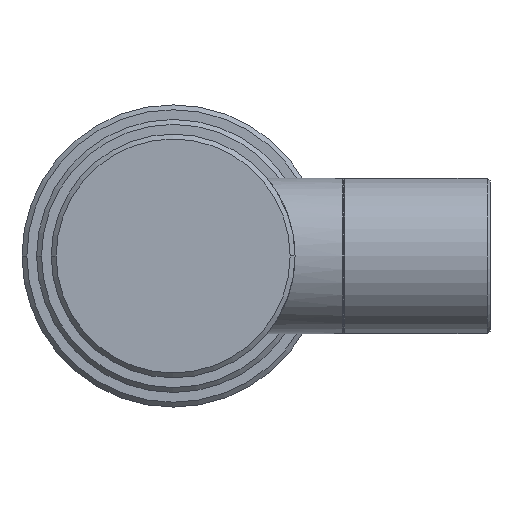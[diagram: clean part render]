
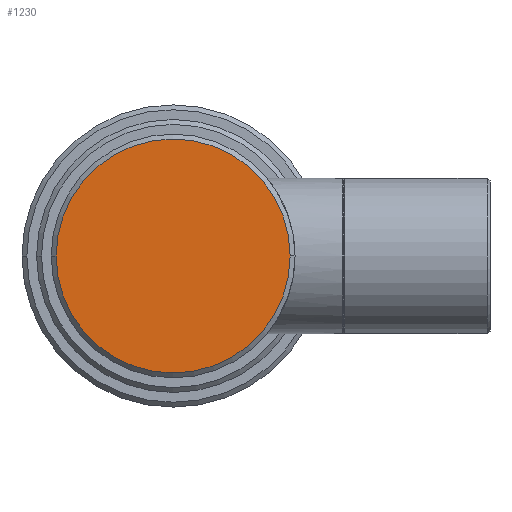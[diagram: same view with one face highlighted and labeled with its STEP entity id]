
A CAD part, left-side view. The second image highlights one B-rep face of the part: STEP entity #1230.
In plain terms, the highlighted planar face has unit normal (-1, 0, 0).
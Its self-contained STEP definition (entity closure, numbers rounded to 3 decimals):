
#48 = ORIENTED_EDGE ( 'NONE', *, *, #811, .T. ) ;
#56 = CARTESIAN_POINT ( 'NONE',  ( -168.426, -12., 0. ) ) ;
#127 = CARTESIAN_POINT ( 'NONE',  ( -168.426, 0., 0. ) ) ;
#172 = CARTESIAN_POINT ( 'NONE',  ( -168.426, 0., 0. ) ) ;
#174 = AXIS2_PLACEMENT_3D ( 'NONE', #127, #950, #242 ) ;
#242 = DIRECTION ( 'NONE',  ( 0., -1., 0. ) ) ;
#257 = VERTEX_POINT ( 'NONE', #896 ) ;
#333 = VERTEX_POINT ( 'NONE', #56 ) ;
#343 = CIRCLE ( 'NONE', #1397, 12. ) ;
#417 = FACE_OUTER_BOUND ( 'NONE', #1307, .T. ) ;
#655 = CARTESIAN_POINT ( 'NONE',  ( -168.426, 0., 0. ) ) ;
#665 = CIRCLE ( 'NONE', #174, 12. ) ;
#767 = DIRECTION ( 'NONE',  ( 0., 1., 0. ) ) ;
#778 = DIRECTION ( 'NONE',  ( 0., -1., 0. ) ) ;
#811 = EDGE_CURVE ( 'NONE', #257, #333, #665, .T. ) ;
#896 = CARTESIAN_POINT ( 'NONE',  ( -168.426, 12., 0. ) ) ;
#950 = DIRECTION ( 'NONE',  ( -1., 0., 0. ) ) ;
#1165 = AXIS2_PLACEMENT_3D ( 'NONE', #172, #1452, #767 ) ;
#1230 = ADVANCED_FACE ( 'NONE', ( #417 ), #1343, .F. ) ;
#1269 = EDGE_CURVE ( 'NONE', #333, #257, #343, .T. ) ;
#1307 = EDGE_LOOP ( 'NONE', ( #48, #1438 ) ) ;
#1343 = PLANE ( 'NONE',  #1165 ) ;
#1397 = AXIS2_PLACEMENT_3D ( 'NONE', #655, #1465, #778 ) ;
#1438 = ORIENTED_EDGE ( 'NONE', *, *, #1269, .T. ) ;
#1452 = DIRECTION ( 'NONE',  ( 1., 0., 0. ) ) ;
#1465 = DIRECTION ( 'NONE',  ( -1., 0., 0. ) ) ;
